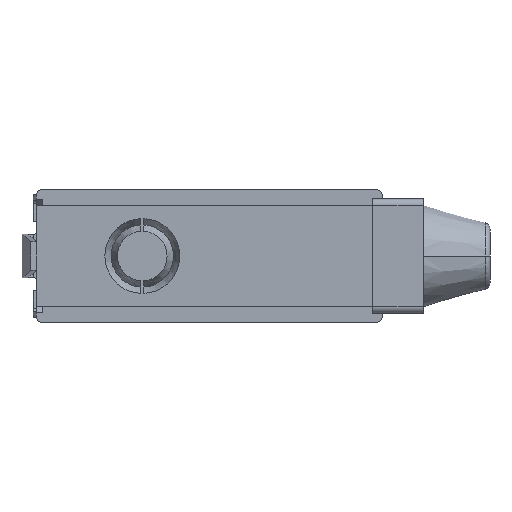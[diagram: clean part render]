
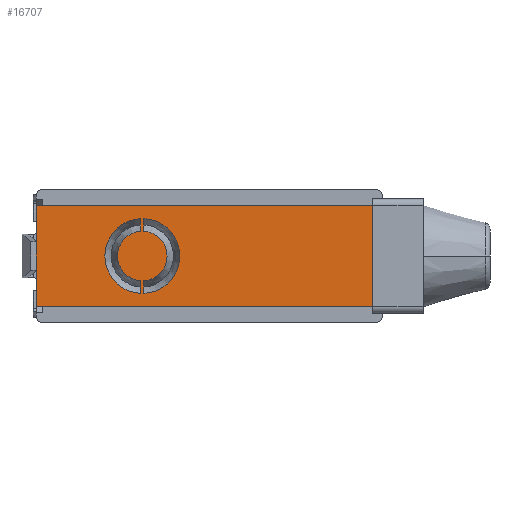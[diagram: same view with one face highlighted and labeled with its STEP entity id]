
A CAD part, front view. The second image highlights one B-rep face of the part: STEP entity #16707.
In plain terms, the highlighted planar face has unit normal (0, -1, 0).
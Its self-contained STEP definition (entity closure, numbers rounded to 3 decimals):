
#141 = AXIS2_PLACEMENT_3D ( 'NONE', #10681, #10682, #10683 ) ;
#271 = VECTOR ( 'NONE', #10352, 1000. ) ;
#295 = VECTOR ( 'NONE', #10762, 1000. ) ;
#301 = AXIS2_PLACEMENT_3D ( 'NONE', #10650, #10654, #10655 ) ;
#453 = VECTOR ( 'NONE', #6042, 1000. ) ;
#883 = AXIS2_PLACEMENT_3D ( 'NONE', #11118, #11119, #11120 ) ;
#886 = FACE_BOUND ( 'NONE', #2031, .T. ) ;
#911 = FACE_OUTER_BOUND ( 'NONE', #2033, .T. ) ;
#1049 = FACE_BOUND ( 'NONE', #2032, .T. ) ;
#1605 = VERTEX_POINT ( 'NONE', #4030 ) ;
#1607 = VERTEX_POINT ( 'NONE', #4032 ) ;
#1609 = VERTEX_POINT ( 'NONE', #4034 ) ;
#1610 = VERTEX_POINT ( 'NONE', #4035 ) ;
#1617 = VERTEX_POINT ( 'NONE', #4042 ) ;
#1622 = VERTEX_POINT ( 'NONE', #4047 ) ;
#1662 = VERTEX_POINT ( 'NONE', #4087 ) ;
#1665 = VERTEX_POINT ( 'NONE', #4090 ) ;
#1714 = VERTEX_POINT ( 'NONE', #4139 ) ;
#1716 = VERTEX_POINT ( 'NONE', #4141 ) ;
#1717 = VERTEX_POINT ( 'NONE', #4142 ) ;
#1718 = VERTEX_POINT ( 'NONE', #4143 ) ;
#2031 = EDGE_LOOP ( 'NONE', ( #2503, #2504, #2502, #2506 ) ) ;
#2032 = EDGE_LOOP ( 'NONE', ( #2507, #2508, #2505, #2510 ) ) ;
#2033 = EDGE_LOOP ( 'NONE', ( #2511, #2512, #2513, #2509 ) ) ;
#2502 = ORIENTED_EDGE ( 'NONE', *, *, #17022, .T. ) ;
#2503 = ORIENTED_EDGE ( 'NONE', *, *, #17021, .T. ) ;
#2504 = ORIENTED_EDGE ( 'NONE', *, *, #16581, .F. ) ;
#2505 = ORIENTED_EDGE ( 'NONE', *, *, #17024, .T. ) ;
#2506 = ORIENTED_EDGE ( 'NONE', *, *, #16575, .T. ) ;
#2507 = ORIENTED_EDGE ( 'NONE', *, *, #17023, .T. ) ;
#2508 = ORIENTED_EDGE ( 'NONE', *, *, #17017, .F. ) ;
#2509 = ORIENTED_EDGE ( 'NONE', *, *, #4411, .T. ) ;
#2510 = ORIENTED_EDGE ( 'NONE', *, *, #17018, .T. ) ;
#2511 = ORIENTED_EDGE ( 'NONE', *, *, #16950, .T. ) ;
#2512 = ORIENTED_EDGE ( 'NONE', *, *, #4575, .F. ) ;
#2513 = ORIENTED_EDGE ( 'NONE', *, *, #16607, .F. ) ;
#4030 = CARTESIAN_POINT ( 'NONE',  ( -10.3, -19.6, -5.895 ) ) ;
#4032 = CARTESIAN_POINT ( 'NONE',  ( -10.3, -19.6, 5.895 ) ) ;
#4034 = CARTESIAN_POINT ( 'NONE',  ( -10.3, -19.6, -3.892 ) ) ;
#4035 = CARTESIAN_POINT ( 'NONE',  ( -10.3, -19.6, 3.892 ) ) ;
#4042 = CARTESIAN_POINT ( 'NONE',  ( 27.25, -19.6, -7.95 ) ) ;
#4047 = CARTESIAN_POINT ( 'NONE',  ( 27.25, -19.6, 7.95 ) ) ;
#4087 = CARTESIAN_POINT ( 'NONE',  ( -27.25, -19.6, 7.95 ) ) ;
#4090 = CARTESIAN_POINT ( 'NONE',  ( -27.25, -19.6, -7.95 ) ) ;
#4139 = CARTESIAN_POINT ( 'NONE',  ( -10.8, -19.6, -5.895 ) ) ;
#4141 = CARTESIAN_POINT ( 'NONE',  ( -10.8, -19.6, 5.895 ) ) ;
#4142 = CARTESIAN_POINT ( 'NONE',  ( -10.8, -19.6, -3.892 ) ) ;
#4143 = CARTESIAN_POINT ( 'NONE',  ( -10.8, -19.6, 3.892 ) ) ;
#4411 = EDGE_CURVE ( 'NONE', #1622, #1662, #6040, .T. ) ;
#4575 = EDGE_CURVE ( 'NONE', #1617, #1665, #10350, .T. ) ;
#4767 = CIRCLE ( 'NONE', #301, 3.9 ) ;
#4769 = CIRCLE ( 'NONE', #141, 5.9 ) ;
#4827 = CIRCLE ( 'NONE', #16392, 5.9 ) ;
#4828 = CIRCLE ( 'NONE', #16367, 3.9 ) ;
#6040 = LINE ( 'NONE', #6041, #453 ) ;
#6041 = CARTESIAN_POINT ( 'NONE',  ( 27.25, -19.6, 7.95 ) ) ;
#6042 = DIRECTION ( 'NONE',  ( -1., 0., 0. ) ) ;
#10350 = LINE ( 'NONE', #10351, #271 ) ;
#10351 = CARTESIAN_POINT ( 'NONE',  ( 27.25, -19.6, -7.95 ) ) ;
#10352 = DIRECTION ( 'NONE',  ( -1., 0., 0. ) ) ;
#10650 = CARTESIAN_POINT ( 'NONE',  ( -10.55, -19.6, 0. ) ) ;
#10654 = DIRECTION ( 'NONE',  ( 0., -1., 0. ) ) ;
#10655 = DIRECTION ( 'NONE',  ( 0., 0., -1. ) ) ;
#10681 = CARTESIAN_POINT ( 'NONE',  ( -10.55, -19.6, 0. ) ) ;
#10682 = DIRECTION ( 'NONE',  ( 0., -1., 0. ) ) ;
#10683 = DIRECTION ( 'NONE',  ( 0., 0., -1. ) ) ;
#10760 = LINE ( 'NONE', #10761, #295 ) ;
#10761 = CARTESIAN_POINT ( 'NONE',  ( 27.25, -19.6, 7.95 ) ) ;
#10762 = DIRECTION ( 'NONE',  ( 0., 0., -1. ) ) ;
#11117 = PLANE ( 'NONE',  #883 ) ;
#11118 = CARTESIAN_POINT ( 'NONE',  ( 27.25, -19.6, 7.95 ) ) ;
#11119 = DIRECTION ( 'NONE',  ( 0., 1., 0. ) ) ;
#11120 = DIRECTION ( 'NONE',  ( 0., 0., 1. ) ) ;
#15392 = LINE ( 'NONE', #15393, #16469 ) ;
#15393 = CARTESIAN_POINT ( 'NONE',  ( -27.25, -19.6, 7.95 ) ) ;
#15394 = DIRECTION ( 'NONE',  ( 0., 0., -1. ) ) ;
#15597 = CARTESIAN_POINT ( 'NONE',  ( -10.55, -19.6, 0. ) ) ;
#15598 = DIRECTION ( 'NONE',  ( 0., -1., 0. ) ) ;
#15599 = DIRECTION ( 'NONE',  ( 0., 0., -1. ) ) ;
#15600 = CARTESIAN_POINT ( 'NONE',  ( -10.55, -19.6, 0. ) ) ;
#15601 = DIRECTION ( 'NONE',  ( 0., -1., 0. ) ) ;
#15602 = DIRECTION ( 'NONE',  ( 0., 0., -1. ) ) ;
#15615 = LINE ( 'NONE', #15616, #16399 ) ;
#15616 = CARTESIAN_POINT ( 'NONE',  ( -10.3, -19.6, -5.9 ) ) ;
#15617 = DIRECTION ( 'NONE',  ( 0., 0., 1. ) ) ;
#15618 = LINE ( 'NONE', #15619, #16396 ) ;
#15619 = CARTESIAN_POINT ( 'NONE',  ( -10.3, -19.6, -5.9 ) ) ;
#15620 = DIRECTION ( 'NONE',  ( 0., 0., 1. ) ) ;
#15621 = LINE ( 'NONE', #15622, #16373 ) ;
#15622 = CARTESIAN_POINT ( 'NONE',  ( -10.8, -19.6, -5.9 ) ) ;
#15623 = DIRECTION ( 'NONE',  ( 0., 0., -1. ) ) ;
#15624 = LINE ( 'NONE', #15625, #16366 ) ;
#15625 = CARTESIAN_POINT ( 'NONE',  ( -10.8, -19.6, -5.9 ) ) ;
#15626 = DIRECTION ( 'NONE',  ( 0., 0., -1. ) ) ;
#16366 = VECTOR ( 'NONE', #15626, 1000. ) ;
#16367 = AXIS2_PLACEMENT_3D ( 'NONE', #15600, #15601, #15602 ) ;
#16373 = VECTOR ( 'NONE', #15623, 1000. ) ;
#16392 = AXIS2_PLACEMENT_3D ( 'NONE', #15597, #15598, #15599 ) ;
#16396 = VECTOR ( 'NONE', #15620, 1000. ) ;
#16399 = VECTOR ( 'NONE', #15617, 1000. ) ;
#16469 = VECTOR ( 'NONE', #15394, 1000. ) ;
#16575 = EDGE_CURVE ( 'NONE', #1609, #1610, #4767, .T. ) ;
#16581 = EDGE_CURVE ( 'NONE', #1605, #1607, #4769, .T. ) ;
#16607 = EDGE_CURVE ( 'NONE', #1622, #1617, #10760, .T. ) ;
#16707 = ADVANCED_FACE ( 'NONE', ( #886, #1049, #911 ), #11117, .F. ) ;
#16950 = EDGE_CURVE ( 'NONE', #1662, #1665, #15392, .T. ) ;
#17017 = EDGE_CURVE ( 'NONE', #1716, #1714, #4827, .T. ) ;
#17018 = EDGE_CURVE ( 'NONE', #1718, #1717, #4828, .T. ) ;
#17021 = EDGE_CURVE ( 'NONE', #1610, #1607, #15615, .T. ) ;
#17022 = EDGE_CURVE ( 'NONE', #1605, #1609, #15618, .T. ) ;
#17023 = EDGE_CURVE ( 'NONE', #1717, #1714, #15621, .T. ) ;
#17024 = EDGE_CURVE ( 'NONE', #1716, #1718, #15624, .T. ) ;
